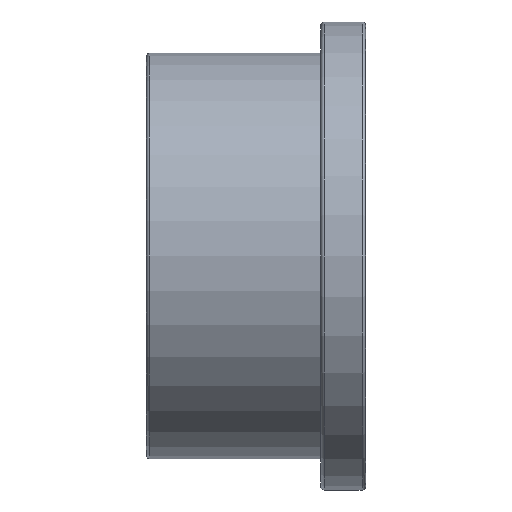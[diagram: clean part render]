
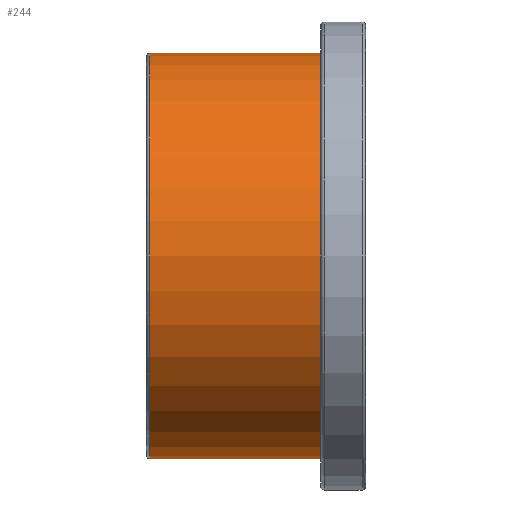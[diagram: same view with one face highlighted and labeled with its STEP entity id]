
A CAD part, front view. The second image highlights one B-rep face of the part: STEP entity #244.
In plain terms, the highlighted cylindrical face has radius 81.5 mm (diameter 163 mm), a full revolution.
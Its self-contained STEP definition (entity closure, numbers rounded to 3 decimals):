
#20=CYLINDRICAL_SURFACE('',#288,81.5);
#46=FACE_BOUND('',#108,.T.);
#67=FACE_OUTER_BOUND('',#107,.T.);
#107=EDGE_LOOP('',(#212));
#108=EDGE_LOOP('',(#213));
#130=CIRCLE('',#285,81.5);
#131=CIRCLE('',#287,81.5);
#151=VERTEX_POINT('',#433);
#152=VERTEX_POINT('',#436);
#172=EDGE_CURVE('',#151,#151,#130,.T.);
#173=EDGE_CURVE('',#152,#152,#131,.T.);
#212=ORIENTED_EDGE('',*,*,#172,.T.);
#213=ORIENTED_EDGE('',*,*,#173,.F.);
#244=ADVANCED_FACE('',(#67,#46),#20,.T.);
#285=AXIS2_PLACEMENT_3D('',#434,#366,#367);
#287=AXIS2_PLACEMENT_3D('',#437,#370,#371);
#288=AXIS2_PLACEMENT_3D('',#438,#372,#373);
#366=DIRECTION('center_axis',(-1.,0.,0.));
#367=DIRECTION('ref_axis',(0.,0.,1.));
#370=DIRECTION('center_axis',(-1.,0.,0.));
#371=DIRECTION('ref_axis',(0.,1.,0.));
#372=DIRECTION('center_axis',(-1.,0.,0.));
#373=DIRECTION('ref_axis',(0.,-1.,0.));
#433=CARTESIAN_POINT('',(70.,-81.5,0.));
#434=CARTESIAN_POINT('Origin',(70.,0.,0.));
#436=CARTESIAN_POINT('',(1.4,-81.5,0.));
#437=CARTESIAN_POINT('Origin',(1.4,0.,0.));
#438=CARTESIAN_POINT('Origin',(35.,0.,0.));
